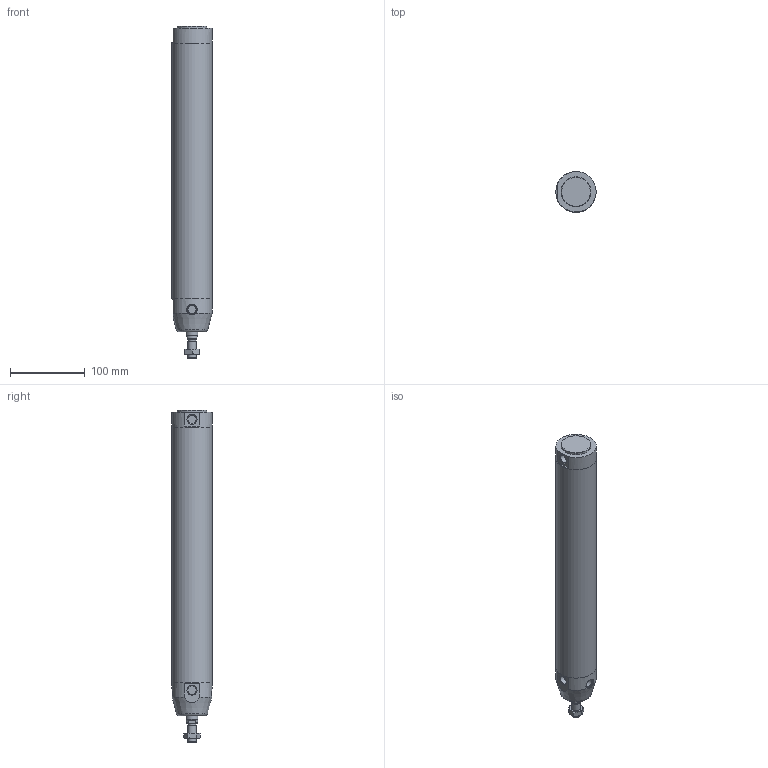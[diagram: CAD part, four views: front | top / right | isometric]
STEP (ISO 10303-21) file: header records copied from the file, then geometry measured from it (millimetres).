
FILE_DESCRIPTION(/* description */ (''),/* implementation_level */ '2;1');
FILE_NAME(/* name */ 'I:\Area Tecnica\Documenti\A-Manieri\_Inventor\12X\12X#E_###_####_#_#\12XAE_050_0300_#_#.stp',/* time_stamp */ '2015-05-08T13:40:41+02:00',/* author */ ('maniean1'),/* organization */ ('Pneumax S.p.A.'),/* preprocessor_version */ 'ST-DEVELOPER v15.2',/* originating_system */ 'Autodesk Inventor 2014',/* authorisation */ '');
FILE_SCHEMA (('AUTOMOTIVE_DESIGN { 1 0 10303 214 3 1 1 }'));
Length unit declared in the file: millimetre
Products named in the file (6): C1250_619-0300; 12X50_622; S12X50_0300; 12X_50_11; 12X50_611; 12XAE_050_0300_#_#
Bounding box: 54 x 54 x 445 mm (x, y, z)
Volume: 397035.6 mm3; surface area: 164681 mm2
Topology: 5 solids, 5 shells, 65 faces, 132 edges, 84 vertices
Faces by surface type: plane 33, cylinder 18, cone 13, torus 1
Full cylindrical faces by diameter (mm): 10.2 x1, 10.9 x2, 11.4 x2, 12 x2, 14 x1, 14.1 x2, 15.6 x1, 16 x1, 40 x1, 50 x2, 54 x3
Entity records: 1691 total; most frequent: CARTESIAN_POINT 368, DIRECTION 279, ORIENTED_EDGE 190, AXIS2_PLACEMENT_3D 129, EDGE_LOOP 108, EDGE_CURVE 95, VERTEX_POINT 77, ADVANCED_FACE 65
